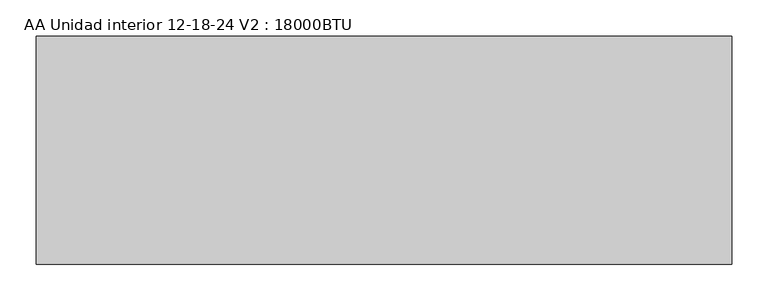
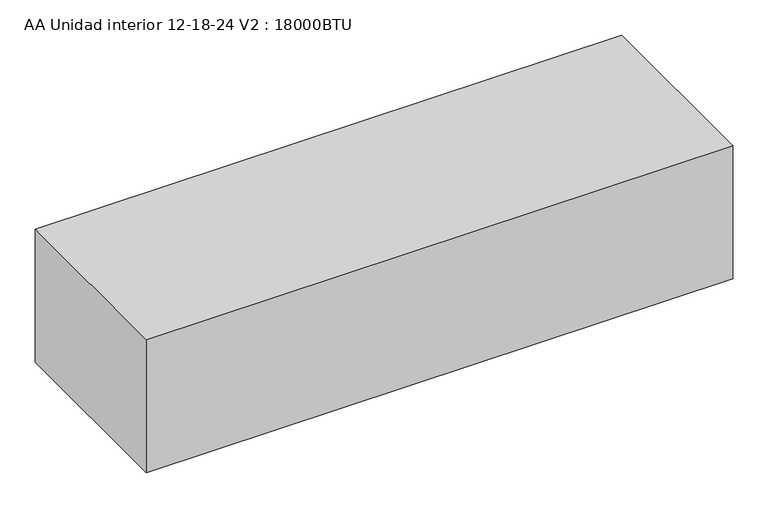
"""IFC4 building model written with IfcOpenShell, lengths in millimetres: proxy geometry, AA Unidad interior 12-18-24 V2 : 18000BTU."""

from ifc_helpers import new_model, si_unit, origin, origin_with_axes, place, context, project, spatial, polyline, outline, extrude, source, transform, mapped, element, save


def aa_unidad_interior_12_18_24_v2_18000btu_9be0fad3(model_context):
    return source(origin(), model_context, "Body", "SweptSolid", [
        extrude(outline(polyline([(480.0, 157.5), (480.0, -157.5), (-480.0, -157.5), (-480.0, 157.5), (480.0, 157.5)])), origin_with_axes(), (0.0, 0.0, 1.0), 230.0),
    ])


if __name__ == "__main__":
    model = new_model("IFC4")
    model_context = context("Model", 3, world=origin())
    ifc_project = project(units=[si_unit("LENGTHUNIT", "METRE", prefix="MILLI")], contexts=[model_context])
    site = spatial("IfcSite", under=ifc_project)
    building = spatial("IfcBuilding", under=site)
    placement = place(None, origin())
    aa_unidad_interior_12_18_24_v2_18000btu_shape = aa_unidad_interior_12_18_24_v2_18000btu_9be0fad3(model_context)
    element("IfcBuildingElementProxy", 1, Name="AA Unidad interior 12-18-24 V2 : 18000BTU", ObjectType="AA Unidad interior 12-18-24 V2 : 18000BTU", at=placement, inside=building, context=model_context, shape_type="MappedRepresentation", body=[
        mapped(aa_unidad_interior_12_18_24_v2_18000btu_shape, transform((0.0, 0.0, 0.0), x_axis=(1.0, 0.0, 0.0), y_axis=(0.0, 1.0, 0.0), z_axis=(0.0, 0.0, 1.0))),
    ])
    save(model, "model.ifc")
